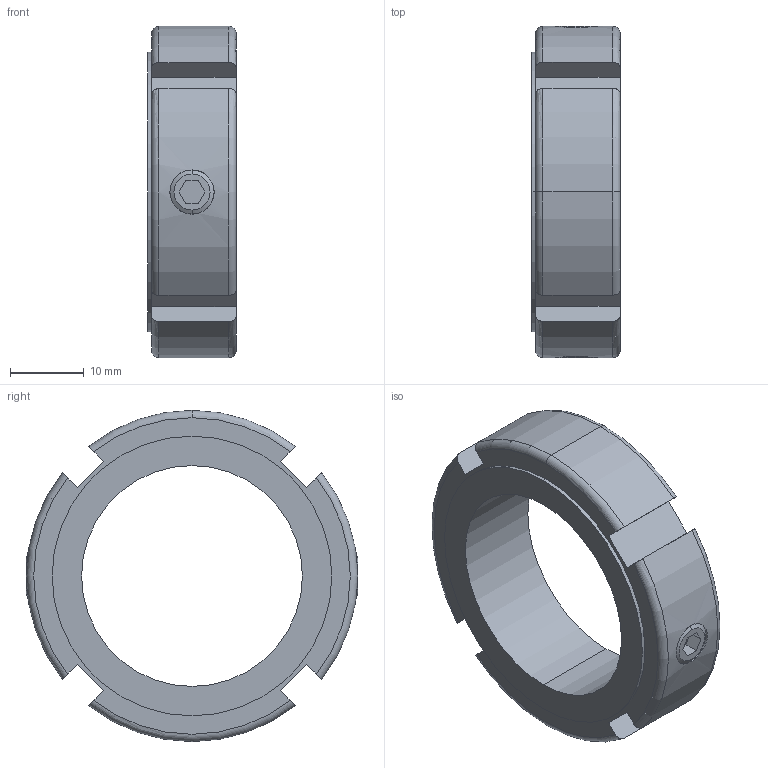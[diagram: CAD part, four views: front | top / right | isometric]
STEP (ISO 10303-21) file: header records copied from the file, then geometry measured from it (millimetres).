
FILE_DESCRIPTION (( 'STEP AP214' ), '1' );
FILE_NAME ('ZN30.STEP', '2020-02-28T04:21:30', ( '' ), ( '' ), 'SwSTEP 2.0', 'SolidWorks 2015', '' );
FILE_SCHEMA (( 'AUTOMOTIVE_DESIGN' ));
Length unit declared in the file: millimetre
Products named in the file (1): ZN30
Bounding box: 12 x 45 x 45 mm (x, y, z)
Volume: 9612.4 mm3; surface area: 4672.3 mm2
Topology: 1 solids, 1 shells, 58 faces, 147 edges, 96 vertices
Faces by surface type: plane 31, cylinder 13, torus 10, cone 4
Entity records: 2637 total; most frequent: CARTESIAN_POINT 562, ORIENTED_EDGE 294, DIRECTION 283, EDGE_CURVE 147, AXIS2_PLACEMENT_3D 97, VERTEX_POINT 96, LINE 89, VECTOR 89
